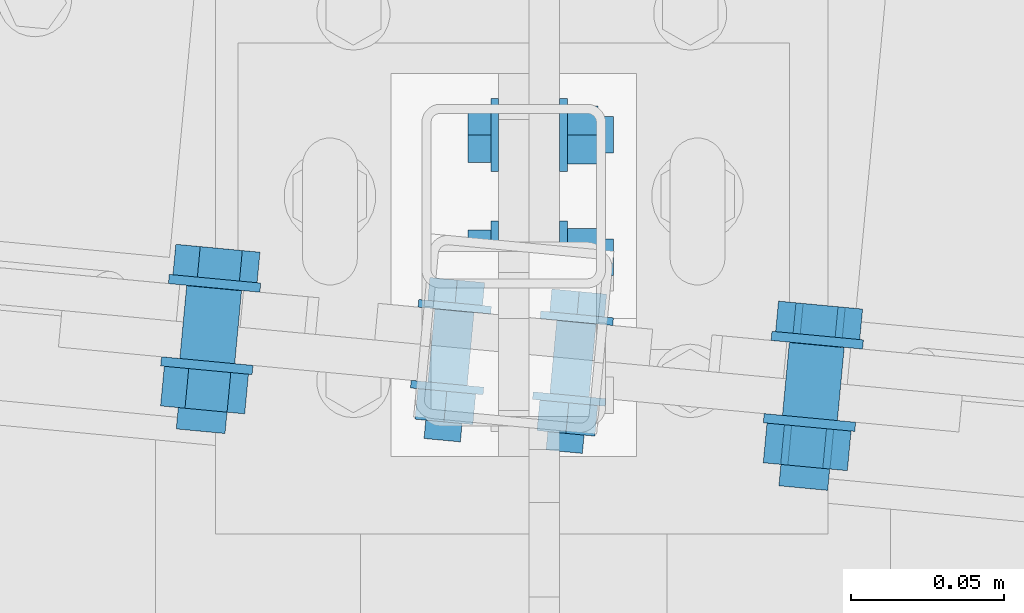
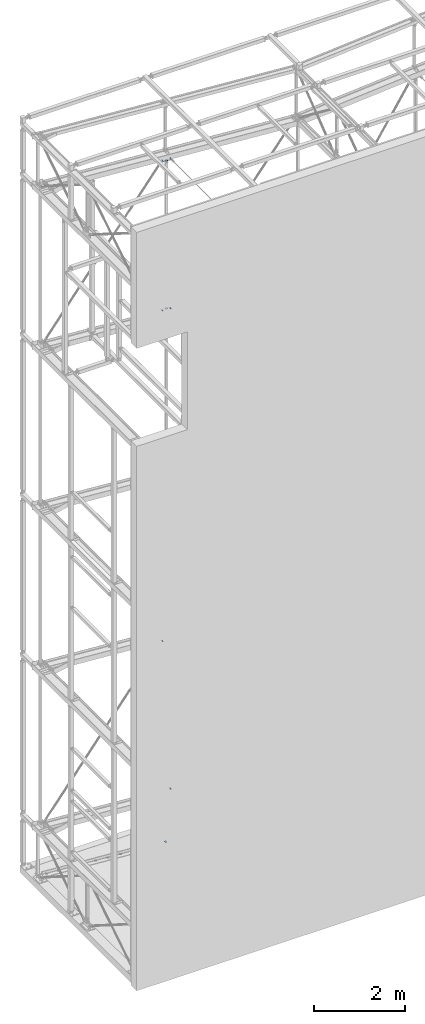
# One storey, part 253 of 271: 9 mechanical fasteners, 8 elements without a shape of their own.
"""IFC2X3 building model written with IfcOpenShell, lengths in millimetres."""

from ifc_helpers import new_model, si_unit, frame, origin_with_axes, origin_2d_with_axis, place, context, subcontext, project, spatial, polyline, circle, outline, extrude, source, transform, mapped, material, type_object, element, aggregate, save


model = new_model("IFC2X3")

# Units and contexts
model_context = context("Model", 3, precision=1e-05, world=origin_with_axes())
body_context = subcontext(model_context, "Body", "Model", "MODEL_VIEW")
ifc_project = project(units=[si_unit("LENGTHUNIT", "METRE", prefix="MILLI"), si_unit("AREAUNIT", "SQUARE_METRE"), si_unit("VOLUMEUNIT", "CUBIC_METRE"), si_unit("MASSUNIT", "GRAM", prefix="KILO"), si_unit("TIMEUNIT", "SECOND"), si_unit("PLANEANGLEUNIT", "RADIAN"), si_unit("SOLIDANGLEUNIT", "STERADIAN"), si_unit("THERMODYNAMICTEMPERATUREUNIT", "DEGREE_CELSIUS"), si_unit("LUMINOUSINTENSITYUNIT", "LUMEN")], contexts=[model_context])

# Site, building, storey
site_placement = place(None, origin_with_axes())
site = spatial("IfcSite", under=ifc_project, at=site_placement, Name="Undefined", CompositionType="ELEMENT")
building_placement = place(site_placement, origin_with_axes())
building = spatial("IfcBuilding", under=site, at=building_placement, Name="Undefined", CompositionType="ELEMENT")
storey_placement = place(building_placement, origin_with_axes())
storey = spatial("IfcBuildingStorey", under=building, at=storey_placement, Name="Undefined", CompositionType="ELEMENT", Elevation=0.0)

# Assembly, mechanical fastener
assembly_1_placement = place(storey_placement, origin_with_axes())
assembly_1 = element("IfcElementAssembly", 1, at=assembly_1_placement, inside=storey, AssemblyPlace="NOTDEFINED", PredefinedType="RIGID_FRAME")
ifc_material = material(Name="Undefined")
mechanical_fastener_type = type_object("IfcMechanicalFastenerType", Name="Bolt assembly")
shared_shape_1 = source(origin_with_axes(), body_context, "Body", "SweptSolid", [
    extrude(circle(Radius=6.5, at=origin_2d_with_axis()), frame((0.0, -5.1, 0.0), z_axis=(0.0, 1.0, 0.0), x_axis=(1.0, 0.0, 0.0)), (0.0, 0.0, 1.0), 10.1),
    extrude(circle(Radius=6.5, at=origin_2d_with_axis()), frame((0.0, -14.9000000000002, 0.0), z_axis=(0.0, 1.0, 0.0), x_axis=(1.0, 0.0, 0.0)), (0.0, 0.0, 1.0), 10.0),
    extrude(outline(polyline([(10.39230484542, 0.0), (5.19615242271, 9.00000000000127), (-5.19615242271, 9.00000000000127), (-10.39230484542, 0.0), (-5.19615242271, -9.00000000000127), (5.19615242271, -9.00000000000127), (10.39230484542, 0.0)])), frame((0.0, -25.0000000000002, 0.0), z_axis=(0.0, 1.0, 0.0), x_axis=(1.0, 0.0, 0.0)), (0.0, 0.0, 1.0), 7.5),
    extrude(circle(Radius=6.0, at=origin_2d_with_axis()), frame((0.0, -17.5000000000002, 0.0), z_axis=(0.0, 1.0, 0.0), x_axis=(1.0, 0.0, 0.0)), (0.0, 0.0, 1.0), 40.0),
    extrude(circle(Radius=12.0, at=origin_2d_with_axis()), frame((0.0, -17.5000000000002, 0.0), z_axis=(0.0, 1.0, 0.0), x_axis=(1.0, 0.0, 0.0)), (0.0, 0.0, 1.0), 2.5),
    extrude(circle(Radius=12.0, at=origin_2d_with_axis()), frame((0.0, 5.00000000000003, 0.0), z_axis=(0.0, 1.0, 0.0), x_axis=(1.0, 0.0, 0.0)), (0.0, 0.0, 1.0), 2.5),
    extrude(outline(polyline([(10.96965511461, 0.0), (5.484827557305, 9.50000000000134), (-5.484827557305, 9.50000000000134), (-10.96965511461, 0.0), (-5.484827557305, -9.50000000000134), (5.484827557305, -9.50000000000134), (10.96965511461, 0.0)])), frame((0.0, 7.50000000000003, 0.0), z_axis=(0.0, 1.0, 0.0), x_axis=(1.0, 0.0, 0.0)), (0.0, 0.0, 1.0), 10.0),
])
mechanical_fastener_1_placement = place(assembly_1_placement, frame((3178.37568709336, 4050.32498425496, 64.6500000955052), z_axis=(0.0, 1.0, 0.0), x_axis=(0.0, 0.0, 1.0)))
mechanical_fastener_1 = element("IfcMechanicalFastener", 2, at=mechanical_fastener_1_placement, type_object=mechanical_fastener_type, material=ifc_material, Name="Bolt assembly", NominalDiameter=12.0, NominalLength=40.0, context=body_context, shape_type="MappedRepresentation", body=[
    mapped(shared_shape_1, transform((0.0, 0.0, -20.0))),
    mapped(shared_shape_1, transform((0.0, 0.0, 20.0))),
])
aggregate(assembly_1, [mechanical_fastener_1])

# Assembly, mechanical fasteners
assembly_2_placement = place(storey_placement, origin_with_axes())
assembly_2 = element("IfcElementAssembly", 3, at=assembly_2_placement, inside=storey, AssemblyPlace="NOTDEFINED", PredefinedType="RIGID_FRAME")
shared_shape_2 = source(origin_with_axes(), body_context, "Body", "SweptSolid", [
    extrude(circle(Radius=6.5, at=origin_2d_with_axis()), frame((0.0, -6.1, 0.0), z_axis=(0.0, 1.0, 0.0), x_axis=(1.0, 0.0, 0.0)), (0.0, 0.0, 1.0), 12.1),
    extrude(circle(Radius=6.5, at=origin_2d_with_axis()), frame((0.0, -17.9, 0.0), z_axis=(0.0, 1.0, 0.0), x_axis=(1.0, 0.0, 0.0)), (0.0, 0.0, 1.0), 12.0),
    extrude(outline(polyline([(10.39230484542, 0.0), (5.19615242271, 9.00000000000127), (-5.19615242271, 9.00000000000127), (-10.39230484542, 0.0), (-5.19615242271, -9.00000000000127), (5.19615242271, -9.00000000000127), (10.39230484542, 0.0)])), frame((0.0, -28.0, 0.0), z_axis=(0.0, 1.0, 0.0), x_axis=(1.0, 0.0, 0.0)), (0.0, 0.0, 1.0), 7.5),
    extrude(circle(Radius=6.0, at=origin_2d_with_axis()), frame((0.0, -20.5, 0.0), z_axis=(0.0, 1.0, 0.0), x_axis=(1.0, 0.0, 0.0)), (0.0, 0.0, 1.0), 45.0),
    extrude(circle(Radius=12.0, at=origin_2d_with_axis()), frame((0.0, -20.5, 0.0), z_axis=(0.0, 1.0, 0.0), x_axis=(1.0, 0.0, 0.0)), (0.0, 0.0, 1.0), 2.5),
    extrude(circle(Radius=12.0, at=origin_2d_with_axis()), frame((0.0, 6.0, 0.0), z_axis=(0.0, 1.0, 0.0), x_axis=(1.0, 0.0, 0.0)), (0.0, 0.0, 1.0), 2.5),
    extrude(outline(polyline([(10.96965511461, 0.0), (5.484827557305, 9.50000000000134), (-5.484827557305, 9.50000000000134), (-10.96965511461, 0.0), (-5.484827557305, -9.50000000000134), (5.484827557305, -9.50000000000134), (10.96965511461, 0.0)])), frame((0.0, 8.5, 0.0), z_axis=(0.0, 1.0, 0.0), x_axis=(1.0, 0.0, 0.0)), (0.0, 0.0, 1.0), 10.0),
])
mechanical_fastener_2_placement = place(assembly_2_placement, frame((3167.22847528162, 3993.16453909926, 18481.0385406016), z_axis=(-0.995579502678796, 0.0939225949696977, 0.0), x_axis=(0.0, 0.0, -1.0)))
mechanical_fastener_2 = element("IfcMechanicalFastener", 4, at=mechanical_fastener_2_placement, type_object=mechanical_fastener_type, material=ifc_material, Name="Bolt assembly", NominalDiameter=12.0, NominalLength=45.0, context=body_context, shape_type="MappedRepresentation", body=[
    mapped(shared_shape_2, transform((0.0, 0.0, -20.0))),
    mapped(shared_shape_2, transform((0.0, 0.0, 20.0))),
])
mechanical_fastener_3_placement = place(assembly_2_placement, frame((3167.22989857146, 3993.17962597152, 14487.6626188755), z_axis=(0.995579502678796, -0.0939225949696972, 0.0), x_axis=(0.0, 0.0, 1.0)))
mechanical_fastener_3 = element("IfcMechanicalFastener", 5, at=mechanical_fastener_3_placement, type_object=mechanical_fastener_type, material=ifc_material, Name="Bolt assembly", NominalDiameter=12.0, NominalLength=45.0, context=body_context, shape_type="MappedRepresentation", body=[
    mapped(shared_shape_2, transform((0.0, 0.0, -20.0))),
    mapped(shared_shape_2, transform((0.0, 0.0, 20.0))),
])
aggregate(assembly_2, [mechanical_fastener_2, mechanical_fastener_3])

# Assembly, mechanical fastener
assembly_3_placement = place(storey_placement, origin_with_axes())
assembly_3 = element("IfcElementAssembly", 6, at=assembly_3_placement, inside=storey, AssemblyPlace="NOTDEFINED", PredefinedType="RIGID_FRAME")
shared_shape_3 = source(origin_with_axes(), body_context, "Body", "SweptSolid", [
    extrude(circle(Radius=9.0, at=origin_2d_with_axis()), frame((0.0, -6.10886097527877, 0.0), z_axis=(0.0, 1.0, 0.0), x_axis=(1.0, 0.0, 0.0)), (0.0, 0.0, 1.0), 12.1),
    extrude(circle(Radius=9.0, at=origin_2d_with_axis()), frame((0.0, -17.9116983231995, 0.0), z_axis=(0.0, 1.0, 0.0), x_axis=(1.0, 0.0, 0.0)), (0.0, 0.0, 1.0), 12.0),
    extrude(outline(polyline([(13.85640646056, 0.0), (6.92820323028, 12.0000000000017), (-6.92820323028, 12.0000000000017), (-13.85640646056, 0.0), (-6.92820323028, -12.0000000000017), (6.92820323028, -12.0000000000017), (13.85640646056, 0.0)])), frame((0.0, -31.0116983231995, 0.0), z_axis=(0.0, 1.0, 0.0), x_axis=(1.0, 0.0, 0.0)), (0.0, 0.0, 1.0), 10.0),
    extrude(circle(Radius=8.0, at=origin_2d_with_axis()), frame((0.0, -21.0116983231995, 0.0), z_axis=(0.0, 1.0, 0.0), x_axis=(1.0, 0.0, 0.0)), (0.0, 0.0, 1.0), 50.0),
    extrude(circle(Radius=15.0, at=origin_2d_with_axis()), frame((0.0, -21.0116983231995, 0.0), z_axis=(0.0, 1.0, 0.0), x_axis=(1.0, 0.0, 0.0)), (0.0, 0.0, 1.0), 3.0),
    extrude(circle(Radius=15.0, at=origin_2d_with_axis()), frame((0.0, 5.99113906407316, 0.0), z_axis=(0.0, 1.0, 0.0), x_axis=(1.0, 0.0, 0.0)), (0.0, 0.0, 1.0), 3.0),
    extrude(outline(polyline([(13.85640646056, 0.0), (6.92820323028, 12.0000000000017), (-6.92820323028, 12.0000000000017), (-13.85640646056, 0.0), (-6.92820323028, -12.0000000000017), (6.92820323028, -12.0000000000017), (13.85640646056, 0.0)])), frame((0.0, 8.99113906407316, 0.0), z_axis=(0.0, 1.0, 0.0), x_axis=(1.0, 0.0, 0.0)), (0.0, 0.0, 1.0), 13.0),
])
mechanical_fastener_4_placement = place(assembly_3_placement, frame((3068.87322377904, 4002.43443642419, 18504.82806502), z_axis=(-0.81251863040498, 0.0766527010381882, 0.57787354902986), x_axis=(-0.575326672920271, 0.0541946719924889, -0.816126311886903)))
mechanical_fastener_4 = element("IfcMechanicalFastener", 7, at=mechanical_fastener_4_placement, type_object=mechanical_fastener_type, material=ifc_material, Name="Bolt assembly", NominalDiameter=16.0, NominalLength=50.0, context=body_context, shape_type="MappedRepresentation", body=[
    mapped(shared_shape_3, transform((0.0, 0.0, 0.0))),
])
aggregate(assembly_3, [mechanical_fastener_4])

assembly_4_placement = place(storey_placement, origin_with_axes())
assembly_4 = element("IfcElementAssembly", 8, at=assembly_4_placement, inside=storey, AssemblyPlace="NOTDEFINED", PredefinedType="RIGID_FRAME")
mechanical_fastener_5_placement = place(assembly_4_placement, frame((3068.8738328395, 4002.44959975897, 14463.873089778), z_axis=(0.812518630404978, -0.0766527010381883, 0.577873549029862), x_axis=(-0.575326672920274, 0.0541946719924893, 0.816126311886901)))
mechanical_fastener_5 = element("IfcMechanicalFastener", 9, at=mechanical_fastener_5_placement, type_object=mechanical_fastener_type, material=ifc_material, Name="Bolt assembly", NominalDiameter=16.0, NominalLength=50.0, context=body_context, shape_type="MappedRepresentation", body=[
    mapped(shared_shape_3, transform((0.0, 0.0, 0.0))),
])
aggregate(assembly_4, [mechanical_fastener_5])

assembly_5_placement = place(storey_placement, origin_with_axes())
assembly_5 = element("IfcElementAssembly", 10, at=assembly_5_placement, inside=storey, AssemblyPlace="NOTDEFINED", PredefinedType="RIGID_FRAME")
mechanical_fastener_6_placement = place(assembly_5_placement, frame((3068.8737881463, 4002.44046301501, 5544.82805897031), z_axis=(-0.81251863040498, 0.0766527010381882, 0.57787354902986), x_axis=(-0.575326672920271, 0.0541946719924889, -0.816126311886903)))
mechanical_fastener_6 = element("IfcMechanicalFastener", 11, at=mechanical_fastener_6_placement, type_object=mechanical_fastener_type, material=ifc_material, Name="Bolt assembly", NominalDiameter=16.0, NominalLength=50.0, context=body_context, shape_type="MappedRepresentation", body=[
    mapped(shared_shape_3, transform((0.0, 0.0, 0.0))),
])
aggregate(assembly_5, [mechanical_fastener_6])

assembly_6_placement = place(storey_placement, origin_with_axes())
assembly_6 = element("IfcElementAssembly", 12, at=assembly_6_placement, inside=storey, AssemblyPlace="NOTDEFINED", PredefinedType="RIGID_FRAME")
shared_shape_4 = source(origin_with_axes(), body_context, "Body", "SweptSolid", [
    extrude(circle(Radius=9.0, at=origin_2d_with_axis()), frame((0.0, -6.108183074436, 0.0), z_axis=(0.0, 1.0, 0.0), x_axis=(1.0, 0.0, 0.0)), (0.0, 0.0, 1.0), 12.1),
    extrude(circle(Radius=9.0, at=origin_2d_with_axis()), frame((0.0, -17.9108111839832, 0.0), z_axis=(0.0, 1.0, 0.0), x_axis=(1.0, 0.0, 0.0)), (0.0, 0.0, 1.0), 12.0),
    extrude(outline(polyline([(13.85640646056, 0.0), (6.92820323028, 12.0000000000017), (-6.92820323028, 12.0000000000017), (-13.85640646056, 0.0), (-6.92820323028, -12.0000000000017), (6.92820323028, -12.0000000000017), (13.85640646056, 0.0)])), frame((0.0, -31.0108111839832, 0.0), z_axis=(0.0, 1.0, 0.0), x_axis=(1.0, 0.0, 0.0)), (0.0, 0.0, 1.0), 10.0),
    extrude(circle(Radius=8.0, at=origin_2d_with_axis()), frame((0.0, -21.0108111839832, 0.0), z_axis=(0.0, 1.0, 0.0), x_axis=(1.0, 0.0, 0.0)), (0.0, 0.0, 1.0), 50.0),
    extrude(circle(Radius=15.0, at=origin_2d_with_axis()), frame((0.0, -21.0108111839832, 0.0), z_axis=(0.0, 1.0, 0.0), x_axis=(1.0, 0.0, 0.0)), (0.0, 0.0, 1.0), 3.0),
    extrude(circle(Radius=15.0, at=origin_2d_with_axis()), frame((0.0, 5.99181695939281, 0.0), z_axis=(0.0, 1.0, 0.0), x_axis=(1.0, 0.0, 0.0)), (0.0, 0.0, 1.0), 3.0),
    extrude(outline(polyline([(13.85640646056, 0.0), (6.92820323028, 12.0000000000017), (-6.92820323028, 12.0000000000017), (-13.85640646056, 0.0), (-6.92820323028, -12.0000000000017), (6.92820323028, -12.0000000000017), (13.85640646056, 0.0)])), frame((0.0, 8.99181695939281, 0.0), z_axis=(0.0, 1.0, 0.0), x_axis=(1.0, 0.0, 0.0)), (0.0, 0.0, 1.0), 13.0),
])
mechanical_fastener_7_placement = place(assembly_6_placement, frame((3265.62369568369, 3983.8737571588, 18506.2561186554), z_axis=(-0.80959699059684, 0.0763770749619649, -0.581995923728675), x_axis=(0.579416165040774, -0.0547372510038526, -0.81319170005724)))
mechanical_fastener_7 = element("IfcMechanicalFastener", 13, at=mechanical_fastener_7_placement, type_object=mechanical_fastener_type, material=ifc_material, Name="Bolt assembly", NominalDiameter=16.0, NominalLength=50.0, context=body_context, shape_type="MappedRepresentation", body=[
    mapped(shared_shape_4, transform((0.0, 0.0, 0.0))),
])
aggregate(assembly_6, [mechanical_fastener_7])

assembly_7_placement = place(storey_placement, origin_with_axes())
assembly_7 = element("IfcElementAssembly", 14, at=assembly_7_placement, inside=storey, AssemblyPlace="NOTDEFINED", PredefinedType="RIGID_FRAME")
mechanical_fastener_8_placement = place(assembly_7_placement, frame((3265.6317423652, 3983.888213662, 14462.2423494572), z_axis=(0.809177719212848, -0.0763375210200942, -0.582583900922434), x_axis=(0.580001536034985, -0.0547925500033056, 0.812770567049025)))
mechanical_fastener_8 = element("IfcMechanicalFastener", 15, at=mechanical_fastener_8_placement, type_object=mechanical_fastener_type, material=ifc_material, Name="Bolt assembly", NominalDiameter=16.0, NominalLength=50.0, context=body_context, shape_type="MappedRepresentation", body=[
    mapped(shared_shape_4, transform((0.0, 0.0, 0.0))),
])
aggregate(assembly_7, [mechanical_fastener_8])

assembly_8_placement = place(storey_placement, origin_with_axes())
assembly_8 = element("IfcElementAssembly", 16, at=assembly_8_placement, inside=storey, AssemblyPlace="NOTDEFINED", PredefinedType="RIGID_FRAME")
mechanical_fastener_9_placement = place(assembly_8_placement, frame((3265.63174236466, 3983.88821365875, 1502.24234945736), z_axis=(0.809177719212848, -0.0763375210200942, -0.582583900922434), x_axis=(0.580001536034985, -0.0547925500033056, 0.812770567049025)))
mechanical_fastener_9 = element("IfcMechanicalFastener", 17, at=mechanical_fastener_9_placement, type_object=mechanical_fastener_type, material=ifc_material, Name="Bolt assembly", NominalDiameter=16.0, NominalLength=50.0, context=body_context, shape_type="MappedRepresentation", body=[
    mapped(shared_shape_4, transform((0.0, 0.0, 0.0))),
])
aggregate(assembly_8, [mechanical_fastener_9])

save(model, "model.ifc")
